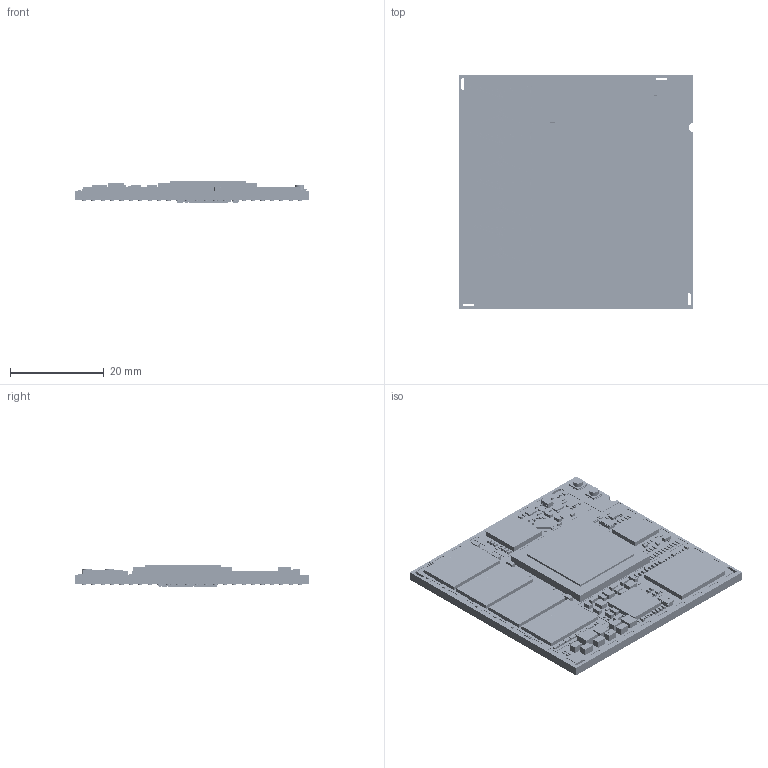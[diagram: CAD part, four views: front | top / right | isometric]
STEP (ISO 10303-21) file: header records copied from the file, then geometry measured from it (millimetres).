
FILE_DESCRIPTION (( 'STEP AP214' ), '1' );
FILE_NAME ('i.MX6x-SMT -no cavity.STEP', '2014-08-04T13:35:25', ( '' ), ( '' ), 'SwSTEP 2.0', 'SolidWorks 2014', '' );
FILE_SCHEMA (( 'AUTOMOTIVE_DESIGN' ));
Length unit declared in the file: inch
Products named in the file (591): C272; R75; C41; C161; C202; C99; Cylinder_4; C278; R43; C2; C188; C242; Extruded_65; C135; Extruded_43; 511551528; C78; 510851424; Extruded_17; R24; C21; C183; R88; L21; Extruded_49; R15; Extruded_8; R63; C59; C223; C273; C245; C40; C163; C201; C100; 458449696; C279; R44; C1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
Assembly tree (1751 placements, depth 4):
  i.MX6x-SMT -no cavity
    no cavity board with pins
    L21
      510858848  x2
        Extruded
      510858976
        Extruded_2
    C283
      510850400  x2
        Extruded_3
      510850528
        Extruded_4
    RP7
      510849248
        Extruded_5
    RP6
      510849248
        Extruded_5
    RP5
      510849248
        Extruded_5
    RP4
      510849248
        Extruded_5
    RP3
      510849248
        Extruded_5
    RP2
      510849248
        Extruded_5
    RP1
      510849248
        Extruded_5
    R126
      510849376
        Extruded_6
      510849504
        Extruded_7
      510849632
        Extruded_8
    R125
      510849376
        Extruded_6
      510849504
        Extruded_7
      510849632
        Extruded_8
    R124
      510849760
        Extruded_9
      510849888
        Extruded_10
      510850016
        Extruded_11
    R123
      510849760
        Extruded_9
      510849888
        Extruded_10
      510850016
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Bounding box: 50 x 50 x 4.61 mm (x, y, z)
Volume: 6143.2 mm3; surface area: 11530.4 mm2
Topology: 1644 solids, 1649 shells, 13124 faces, 27257 edges, 16493 vertices
Faces by surface type: plane 9324, cylinder 2620, bspline 1180
Entity records: 178095 total; most frequent: CARTESIAN_POINT 24851, DIRECTION 23818, ORIENTED_EDGE 15466, AXIS2_PLACEMENT_3D 9970, EDGE_CURVE 7735, VERTEX_POINT 5077, EDGE_LOOP 4752, FACE_OUTER_BOUND 4188
